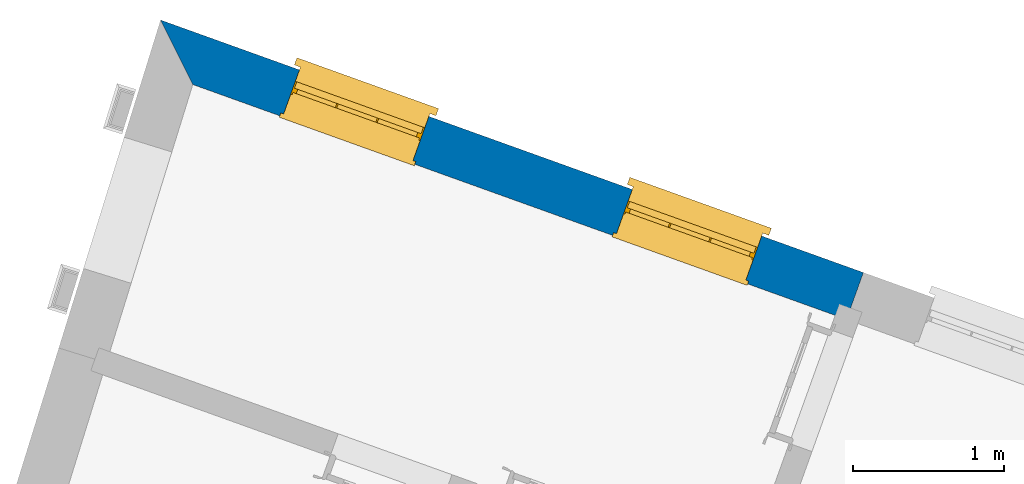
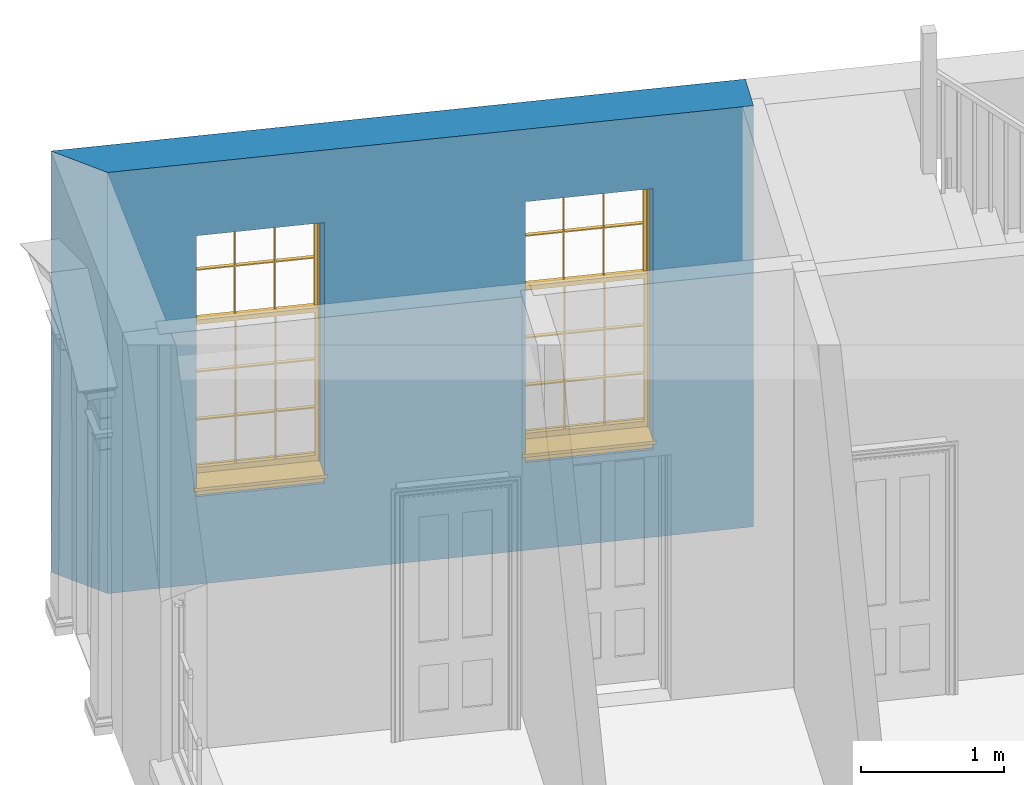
# One storey, part 6 of 6: 2 windows, 1 wall, 2 openings.
"""IFC4 building model written with IfcOpenShell, lengths in metres."""

from ifc_helpers import new_model, si_unit, frame, origin, origin_with_axes, place, context, subcontext, project, spatial, polyline, outline, extrude, faceted_brep, source, transform, mapped, material, layer, layer_set, layer_usage, type_object, type_shapes, element, fill, save


model = new_model("IFC4")

# Units and contexts
model_context = context("Model", 3, world=origin_with_axes())
body_context = subcontext(model_context, "Body", "Model", "MODEL_VIEW")
ifc_project = project(units=[si_unit("PLANEANGLEUNIT", "RADIAN"), si_unit("MASSUNIT", "GRAM", prefix="KILO"), si_unit("FORCEUNIT", "NEWTON", prefix="KILO"), si_unit("LENGTHUNIT", "METRE"), si_unit("AREAUNIT", "SQUARE_METRE"), si_unit("VOLUMEUNIT", "CUBIC_METRE")], contexts=[model_context, model_context])

# Sites, building, storey
site_1_placement = place(None, origin_with_axes())
site_1 = spatial("IfcSite", under=ifc_project, at=site_1_placement, Name="Tamar")
site_2_placement = place(site_1_placement, origin_with_axes())
site_2 = spatial("IfcSite", under=site_1, at=site_2_placement, Name="Site plot-21", CompositionType="ELEMENT")
building_placement = place(None, origin_with_axes())
building = spatial("IfcBuilding", under=site_2, at=building_placement, Name="Building plot-21", CompositionType="ELEMENT")
storey_placement = place(None, frame((0.0, 0.0, 26.0), z_axis=(0.0, 0.0, 1.0), x_axis=(1.0, 0.0, 0.0)))
storey = spatial("IfcBuildingStorey", under=building, at=storey_placement, Name="plot-21 0", CompositionType="ELEMENT", Elevation=26.0)

# Wall, openings, windows
ifc_material = material(Name="Masonry")
ifc_layer = layer(ifc_material, 0.33, ventilated=False)
ifc_layer_set = layer_set([ifc_layer], Name="exterior_0.08_0.25")
ifc_layer_usage = layer_usage(ifc_layer_set, "AXIS2", "POSITIVE", -0.25)
wall_type = type_object("IfcWallType", Name="exterior_0.08_0.25", PredefinedType="SOLIDWALL", material=ifc_layer_set)
wall_placement = place(storey_placement, frame((258.821802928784, 286.207868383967, 0.0), z_axis=(0.0, 0.0, 1.0), x_axis=(-0.941087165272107, 0.338164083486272, 0.0)))
wall = element("IfcWall", 1, at=wall_placement, inside=storey, type_object=wall_type, material=ifc_layer_usage, Name="exterior", context=body_context, shape_type="SweptSolid", body=[
    extrude(outline(polyline([(-1.49520260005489e-14, 0.0799999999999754), (3.07684858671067e-14, -0.250000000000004), (4.94177410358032, -0.250000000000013), (4.59689375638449, 0.0799999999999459), (-1.49520260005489e-14, 0.0799999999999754)])), origin_with_axes(), (0.0, 0.0, 1.0), 3.6),
])
opening_1_placement = place(wall_placement, frame((0.715125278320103, 0.0, 0.75)))
opening_1 = element("IfcOpeningElement", 2, at=opening_1_placement, cuts=wall, Name="My Opening", ObjectType="Opening", context=body_context, shape_type="SweptSolid", body=[
    extrude(outline(polyline([(0.0, -0.269999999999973), (0.910000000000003, -0.269999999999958), (0.910000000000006, 1.10000000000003), (3.21964677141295e-15, 1.10000000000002), (0.0, -0.269999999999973)])), origin_with_axes(), (0.0, 0.0, 1.0), 2.23),
])
opening_2_placement = place(wall_placement, frame((3.05537583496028, 0.0, 0.75)))
opening_2 = element("IfcOpeningElement", 3, at=opening_2_placement, cuts=wall, Name="My Opening", ObjectType="Opening", context=body_context, shape_type="SweptSolid", body=[
    extrude(outline(polyline([(0.0, -0.270000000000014), (0.91000000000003, -0.26999999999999), (0.910000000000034, 1.1), (3.06421554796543e-14, 1.09999999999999), (0.0, -0.270000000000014)])), origin_with_axes(), (0.0, 0.0, 1.0), 2.23),
])
window_type = type_object("IfcWindowType", Name="sash_big_taller", PartitioningType="DOUBLE_PANEL_HORIZONTAL", PredefinedType="NOTDEFINED")
shared_shape = source(origin(), body_context, "Body", "Brep", [
    faceted_brep([(0.033125, 0.145, 1.385209), (0.01, 0.145, 1.385209), (0.033125, 0.145, 1.786042), (0.876875, 0.145, 1.385209), (0.876875, 0.145, 1.786042), (0.9, 0.145, 1.385209), (0.876875, 0.145, 1.796042), (0.876875, 0.145, 2.196875), (0.9, 0.145, 2.22), (0.033125, 0.145, 2.196875), (0.033125, 0.145, 1.796042), (0.01, 0.145, 2.22), (0.876875, 0.115, 1.786042), (0.876875, 0.115, 1.385209), (0.9, 0.115, 1.347084), (0.033125, 0.115, 2.196875), (0.01, 0.115, 2.22), (0.033125, 0.115, 1.796042), (0.01, 0.115, 1.347084), (0.033125, 0.115, 1.385209), (0.033125, 0.115, 1.786042), (0.876875, 0.115, 2.196875), (0.876875, 0.115, 1.796042), (0.9, 0.115, 2.22), (0.033125, 0.145, 1.347084), (0.01, 0.145, 1.347084), (0.033125, 0.145, 0.94625), (0.876875, 0.145, 1.347084), (0.876875, 0.145, 0.94625), (0.9, 0.145, 1.347084), (0.876875, 0.145, 0.52625), (0.876875, 0.145, 0.125417), (0.9, 0.145, 0.077167), (0.033125, 0.145, 0.125417), (0.033125, 0.145, 0.52625), (0.01, 0.145, 0.077167), (-0.0425, 0.0, 0.01), (-0.0425, -0.05, 0.001667), (0.0, 0.0, 0.01), (0.9525, 0.0, 0.01), (0.91, 0.0, 0.01), (0.9525, -0.05, 0.001667), (-0.02, 0.33, 0.077167), (0.0, 0.33, 0.077167), (-0.02, 0.36, 0.077167), (0.0, 0.19, 0.077167), (0.01, 0.19, 0.077167), (0.91, 0.19, 0.077167), (0.91, 0.33, 0.077167), (0.9, 0.19, 0.077167), (0.93, 0.33, 0.077167), (0.93, 0.36, 0.077167), (0.01, 0.175, 1.385209), (0.9, 0.175, 1.385209), (0.876875, 0.175, 0.125417), (0.876875, 0.175, 0.52625), (0.9, 0.175, 0.077167), (0.876875, 0.175, 0.94625), (0.876875, 0.175, 1.347084), (0.033125, 0.175, 0.125417), (0.01, 0.175, 0.077167), (0.033125, 0.175, 0.52625), (0.033125, 0.175, 1.347084), (0.033125, 0.175, 0.94625), (-0.02, 0.33, 0.052167), (-0.02, 0.36, 0.052167), (0.93, 0.36, 0.052167), (0.93, 0.33, 0.052167), (0.91, 0.33, 0.052167), (0.0, 0.33, 0.052167), (0.91, 0.1, 0.026667), (0.0, 0.1, 0.026667), (-0.0425, -0.05, -0.123333), (0.9525, -0.05, -0.123333), (-0.0425, 0.0, -0.123333), (0.9525, 0.0, -0.123333), (0.01, 0.19, 2.22), (0.9, 0.19, 2.22), (0.0, 0.19, 2.23), (0.91, 0.19, 2.23), (0.01, 0.1, 0.077167), (0.9, 0.1, 0.077167), (0.592292, 0.145, 0.125417), (0.592292, 0.175, 0.125417), (0.317708, 0.175, 0.125417), (0.317708, 0.145, 0.125417), (0.592292, 0.145, 0.53625), (0.317708, 0.145, 0.53625), (0.317708, 0.145, 0.52625), (0.592292, 0.145, 0.52625), (0.592292, 0.175, 0.53625), (0.317708, 0.175, 0.53625), (0.592292, 0.115, 1.796042), (0.592292, 0.145, 1.796042), (0.317708, 0.145, 1.796042), (0.317708, 0.115, 1.796042), (0.317708, 0.115, 1.786042), (0.592292, 0.115, 1.786042), (0.317708, 0.145, 1.786042), (0.592292, 0.145, 1.786042), (0.602292, 0.115, 1.786042), (0.592292, 0.115, 1.385209), (0.602292, 0.115, 1.385209), (0.602292, 0.145, 1.385209), (0.592292, 0.145, 1.385209), (0.602292, 0.145, 1.786042), (0.876875, 0.145, 0.53625), (0.876875, 0.175, 0.53625), (0.602292, 0.175, 0.53625), (0.602292, 0.145, 0.53625), (0.317708, 0.175, 0.52625), (0.307708, 0.175, 0.125417), (0.307708, 0.175, 0.52625), (0.602292, 0.175, 0.52625), (0.602292, 0.175, 0.125417), (0.592292, 0.175, 0.52625), (0.307708, 0.175, 0.53625), (0.033125, 0.175, 0.53625), (0.317708, 0.175, 1.347084), (0.317708, 0.175, 0.94625), (0.307708, 0.175, 0.94625), (0.307708, 0.175, 1.347084), (0.602292, 0.175, 1.347084), (0.602292, 0.175, 0.94625), (0.592292, 0.175, 0.94625), (0.592292, 0.175, 1.347084), (0.307708, 0.145, 0.52625), (0.307708, 0.145, 0.125417), (0.307708, 0.145, 0.53625), (0.033125, 0.145, 0.53625), (0.307708, 0.145, 1.347084), (0.307708, 0.145, 0.94625), (0.592292, 0.145, 1.347084), (0.592292, 0.145, 0.94625), (0.317708, 0.145, 0.94625), (0.317708, 0.145, 1.347084), (0.602292, 0.145, 0.94625), (0.602292, 0.145, 1.347084), (0.602292, 0.145, 0.52625), (0.602292, 0.145, 0.125417), (0.307708, 0.115, 1.796042), (0.307708, 0.115, 1.786042), (0.307708, 0.115, 1.385209), (0.317708, 0.115, 1.385209), (0.317708, 0.115, 2.196875), (0.307708, 0.115, 2.196875), (0.602292, 0.115, 2.196875), (0.592292, 0.115, 2.196875), (0.602292, 0.115, 1.796042), (0.602292, 0.145, 1.796042), (0.307708, 0.145, 1.796042), (0.307708, 0.145, 2.196875), (0.317708, 0.145, 2.196875), (0.592292, 0.145, 2.196875), (0.602292, 0.145, 2.196875), (0.307708, 0.145, 1.786042), (0.317708, 0.145, 1.385209), (0.307708, 0.145, 1.385209), (0.876875, 0.175, 0.93625), (0.033125, 0.175, 0.93625), (0.033125, 0.145, 0.93625), (0.876875, 0.145, 0.93625), (0.91, 0.1, 2.23), (0.9, 0.1, 2.22), (0.01, 0.1, 2.22), (0.0, 0.1, 2.23), (0.91, 0.0, 0.0), (0.0, 0.0, 0.0), (0.91, 0.33, 0.0), (0.0, 0.33, 0.0), (0.317708, 0.145, 0.93625), (0.592292, 0.145, 0.93625), (0.317708, 0.175, 0.93625), (0.307708, 0.175, 0.93625), (0.602292, 0.175, 0.93625), (0.592292, 0.175, 0.93625), (0.307708, 0.145, 0.93625), (0.602292, 0.145, 0.93625)], [[[0, 1, 2]], [[3, 4, 5]], [[6, 7, 8]], [[9, 10, 11]], [[12, 13, 14]], [[15, 16, 17]], [[18, 19, 20]], [[21, 22, 23]], [[24, 25, 26]], [[27, 28, 29]], [[30, 31, 32]], [[33, 34, 35]], [[14, 27, 29]], [[25, 24, 18]], [[36, 37, 38]], [[39, 40, 41]], [[42, 43, 44]], [[45, 46, 43]], [[47, 48, 49]], [[50, 51, 48]], [[1, 0, 52]], [[5, 53, 3]], [[54, 55, 56]], [[57, 58, 53]], [[59, 60, 61]], [[62, 63, 52]], [[48, 43, 46, 49]], [[51, 44, 43, 48]], [[64, 42, 44, 65]], [[65, 44, 51, 66]], [[66, 51, 50, 67]], [[65, 66, 68, 69]], [[60, 56, 49, 46]], [[70, 71, 38, 40]], [[37, 41, 40, 38]], [[37, 72, 73, 41]], [[74, 75, 73, 72]], [[8, 11, 76, 77]], [[76, 78, 79, 77]], [[32, 35, 80, 81]], [[81, 80, 71, 70]], [[82, 83, 84, 85]], [[86, 87, 88, 89]], [[86, 90, 91, 87]], [[92, 93, 94, 95]], [[92, 95, 96, 97]], [[96, 98, 99, 97]], [[100, 97, 101, 102]], [[103, 104, 99, 105]], [[97, 99, 104, 101]], [[102, 103, 105, 100]], [[106, 107, 108, 109]], [[110, 84, 111, 112]], [[113, 114, 83, 115]], [[116, 112, 61, 117]], [[90, 115, 110, 91]], [[118, 119, 120, 121]], [[122, 123, 124, 125]], [[113, 108, 107, 55]], [[126, 112, 111, 127]], [[34, 61, 112, 126]], [[89, 115, 83, 82]], [[88, 110, 115, 89]], [[85, 84, 110, 88]], [[128, 116, 117, 129]], [[130, 121, 120, 131]], [[132, 125, 124, 133]], [[134, 119, 118, 135]], [[136, 123, 122, 137]], [[138, 113, 55, 30]], [[139, 114, 113, 138]], [[138, 30, 106, 109]], [[88, 126, 127, 85]], [[138, 89, 82, 139]], [[137, 132, 133, 136]], [[128, 129, 34, 126]], [[135, 130, 131, 134]], [[140, 17, 20, 141]], [[96, 141, 142, 143]], [[144, 145, 140, 95]], [[146, 147, 92, 148]], [[100, 12, 22, 148]], [[149, 6, 4, 105]], [[94, 150, 151, 152]], [[149, 93, 153, 154]], [[99, 98, 94, 93]], [[155, 2, 10, 150]], [[156, 157, 155, 98]], [[141, 155, 157, 142]], [[20, 2, 155, 141]], [[143, 156, 98, 96]], [[140, 150, 10, 17]], [[145, 151, 150, 140]], [[147, 153, 93, 92]], [[95, 94, 152, 144]], [[22, 6, 149, 148]], [[148, 149, 154, 146]], [[100, 105, 4, 12]], [[109, 86, 89, 138]], [[108, 113, 115, 90]], [[91, 110, 112, 116]], [[87, 128, 126, 88]], [[97, 100, 148, 92]], [[141, 96, 95, 140]], [[98, 155, 150, 94]], [[105, 99, 93, 149]], [[143, 101, 104, 156]], [[135, 118, 125, 132]], [[144, 152, 153, 147]], [[127, 111, 59, 33]], [[15, 9, 151, 145]], [[146, 154, 7, 21]], [[31, 54, 114, 139]], [[36, 74, 72, 37]], [[39, 41, 73, 75]], [[18, 14, 101, 143]], [[23, 16, 144, 147]], [[83, 56, 60, 84]], [[52, 53, 125, 118]], [[53, 52, 156, 104]], [[11, 8, 153, 152]], [[14, 18, 135, 132]], [[2, 1, 11, 10]], [[8, 5, 4, 6]], [[57, 53, 56, 158]], [[60, 52, 63, 159]], [[26, 25, 35, 160]], [[32, 29, 28, 161]], [[14, 23, 22, 12]], [[18, 20, 17, 16]], [[19, 0, 2, 20]], [[17, 10, 9, 15]], [[12, 4, 3, 13]], [[21, 7, 6, 22]], [[27, 58, 57, 28]], [[30, 55, 54, 31]], [[33, 59, 61, 34]], [[26, 63, 62, 24]], [[5, 8, 77, 53]], [[76, 11, 1, 52]], [[46, 45, 78, 76]], [[49, 77, 79, 47]], [[70, 162, 163, 81]], [[71, 80, 164, 165]], [[19, 142, 157, 0]], [[102, 13, 3, 103]], [[121, 130, 24, 62]], [[29, 32, 81, 14]], [[80, 35, 25, 18]], [[60, 46, 76, 52]], [[77, 49, 56, 53]], [[23, 14, 81, 163]], [[16, 164, 80, 18]], [[35, 85, 127]], [[127, 33, 35]], [[139, 82, 32]], [[32, 31, 139]], [[32, 82, 85, 35]], [[102, 101, 14]], [[14, 13, 102]], [[18, 143, 142]], [[142, 19, 18]], [[146, 21, 23]], [[23, 147, 146]], [[16, 15, 145]], [[145, 144, 16]], [[11, 152, 151]], [[151, 9, 11]], [[154, 153, 8]], [[8, 7, 154]], [[23, 163, 164, 16]], [[162, 165, 164, 163]], [[52, 118, 121]], [[121, 62, 52]], [[125, 53, 122]], [[58, 122, 53]], [[27, 137, 122, 58]], [[56, 83, 114]], [[114, 54, 56]], [[111, 84, 60]], [[60, 59, 111]], [[137, 27, 14]], [[14, 132, 137]], [[130, 135, 18]], [[18, 24, 130]], [[157, 156, 52]], [[52, 0, 157]], [[103, 3, 53]], [[53, 104, 103]], [[79, 78, 165, 162]], [[78, 45, 71, 165]], [[162, 70, 47, 79]], [[166, 75, 74, 167]], [[68, 66, 67]], [[48, 68, 67, 50]], [[69, 64, 65]], [[42, 64, 69, 43]], [[69, 68, 168, 169]], [[70, 68, 48, 47]], [[166, 168, 68, 70]], [[43, 69, 71, 45]], [[69, 169, 167, 71]], [[168, 166, 167, 169]], [[38, 167, 74, 36]], [[71, 167, 38]], [[39, 75, 166, 40]], [[40, 166, 70]], [[133, 134, 170, 171]], [[133, 124, 119, 134]], [[28, 57, 123, 136]], [[172, 91, 116, 173]], [[174, 108, 90, 175]], [[120, 173, 159, 63]], [[124, 175, 172, 119]], [[174, 123, 57, 158]], [[176, 173, 116, 128]], [[160, 159, 173, 176]], [[171, 175, 90, 86]], [[170, 172, 175, 171]], [[87, 91, 172, 170]], [[131, 120, 63, 26]], [[177, 174, 158, 161]], [[109, 108, 174, 177]], [[177, 161, 28, 136]], [[170, 176, 128, 87]], [[177, 171, 86, 109]], [[131, 26, 160, 176]], [[136, 133, 171, 177]], [[123, 174, 175, 124]], [[119, 172, 173, 120]], [[134, 131, 176, 170]], [[129, 117, 159, 160]], [[161, 158, 107, 106]], [[35, 34, 129]], [[35, 129, 160]], [[32, 106, 30]], [[32, 161, 106]], [[56, 55, 107]], [[56, 107, 158]], [[60, 117, 61]], [[60, 159, 117]]]),
])
type_shapes(window_type, [shared_shape])
window_1_placement = place(storey_placement, frame((258.240112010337, 286.703791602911, 0.75), z_axis=(0.0, 0.0, 1.0), x_axis=(-0.856389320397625, 0.307729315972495, 0.0)))
window_1 = element("IfcWindow", 4, at=window_1_placement, inside=storey, type_object=window_type, Name="circulation street window", OverallHeight=2.23, OverallWidth=0.91, context=body_context, shape_type="MappedRepresentation", body=[
    mapped(shared_shape, transform((0.0, 0.0, 0.0), scale=1.0)),
])
fill(opening_1, window_1)
window_2_placement = place(storey_placement, frame((256.037732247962, 287.495180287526, 0.75), z_axis=(0.0, 0.0, 1.0), x_axis=(-0.856389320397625, 0.307729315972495, 0.0)))
window_2 = element("IfcWindow", 5, at=window_2_placement, inside=storey, type_object=window_type, Name="circulation street window", OverallHeight=2.23, OverallWidth=0.91, context=body_context, shape_type="MappedRepresentation", body=[
    mapped(shared_shape, transform((0.0, 0.0, 0.0), scale=1.0)),
])
fill(opening_2, window_2)

save(model, "model.ifc")
